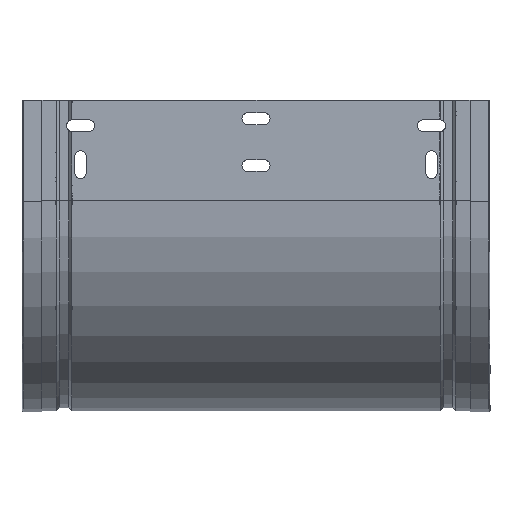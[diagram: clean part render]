
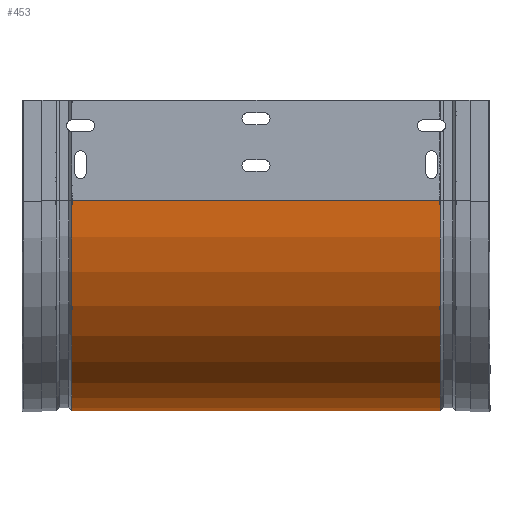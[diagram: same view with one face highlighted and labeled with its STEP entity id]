
A CAD part, front view. The second image highlights one B-rep face of the part: STEP entity #453.
In plain terms, the highlighted cylindrical face has radius 134.8 mm (diameter 269.6 mm), a partial arc.
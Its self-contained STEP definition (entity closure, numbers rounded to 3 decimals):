
#40 = ORIENTED_EDGE ( 'NONE', *, *, #5188, .T. ) ;
#144 = DIRECTION ( 'NONE',  ( 0., 0., -1. ) ) ;
#238 = CARTESIAN_POINT ( 'NONE',  ( -267., 134., -199.2 ) ) ;
#270 = EDGE_CURVE ( 'NONE', #3247, #3395, #508, .T. ) ;
#394 = CIRCLE ( 'NONE', #1676, 134.8 ) ;
#453 = ADVANCED_FACE ( 'NONE', ( #5067 ), #1653, .T. ) ;
#508 = LINE ( 'NONE', #5388, #1734 ) ;
#654 = VECTOR ( 'NONE', #1642, 1000. ) ;
#724 = CARTESIAN_POINT ( 'NONE',  ( -31., -0.8, -64.4 ) ) ;
#896 = CARTESIAN_POINT ( 'NONE',  ( -31., 134., -199.2 ) ) ;
#1262 = AXIS2_PLACEMENT_3D ( 'NONE', #4352, #3443, #2229 ) ;
#1339 = CARTESIAN_POINT ( 'NONE',  ( -31., 134., -64.4 ) ) ;
#1347 = DIRECTION ( 'NONE',  ( 1., 0., 0. ) ) ;
#1480 = VERTEX_POINT ( 'NONE', #4097 ) ;
#1591 = ORIENTED_EDGE ( 'NONE', *, *, #2589, .F. ) ;
#1642 = DIRECTION ( 'NONE',  ( 1., 0., 0. ) ) ;
#1653 = CYLINDRICAL_SURFACE ( 'NONE', #1262, 134.8 ) ;
#1676 = AXIS2_PLACEMENT_3D ( 'NONE', #1339, #4846, #1833 ) ;
#1726 = CARTESIAN_POINT ( 'NONE',  ( -267., -0.8, -64.4 ) ) ;
#1734 = VECTOR ( 'NONE', #4544, 1000. ) ;
#1833 = DIRECTION ( 'NONE',  ( 0., 0., -1. ) ) ;
#2229 = DIRECTION ( 'NONE',  ( 0., 0., -1. ) ) ;
#2589 = EDGE_CURVE ( 'NONE', #4158, #1480, #3344, .T. ) ;
#2682 = AXIS2_PLACEMENT_3D ( 'NONE', #5355, #1347, #144 ) ;
#2768 = CIRCLE ( 'NONE', #2682, 134.8 ) ;
#3247 = VERTEX_POINT ( 'NONE', #238 ) ;
#3344 = LINE ( 'NONE', #724, #654 ) ;
#3395 = VERTEX_POINT ( 'NONE', #896 ) ;
#3443 = DIRECTION ( 'NONE',  ( 1., 0., 0. ) ) ;
#3972 = ORIENTED_EDGE ( 'NONE', *, *, #5628, .F. ) ;
#4097 = CARTESIAN_POINT ( 'NONE',  ( -31., -0.8, -64.4 ) ) ;
#4158 = VERTEX_POINT ( 'NONE', #1726 ) ;
#4352 = CARTESIAN_POINT ( 'NONE',  ( 0., 134., -64.4 ) ) ;
#4544 = DIRECTION ( 'NONE',  ( 1., 0., 0. ) ) ;
#4846 = DIRECTION ( 'NONE',  ( 1., 0., 0. ) ) ;
#5067 = FACE_OUTER_BOUND ( 'NONE', #5406, .T. ) ;
#5188 = EDGE_CURVE ( 'NONE', #4158, #3247, #2768, .T. ) ;
#5355 = CARTESIAN_POINT ( 'NONE',  ( -267., 134., -64.4 ) ) ;
#5388 = CARTESIAN_POINT ( 'NONE',  ( -31., 134., -199.2 ) ) ;
#5406 = EDGE_LOOP ( 'NONE', ( #1591, #40, #5644, #3972 ) ) ;
#5628 = EDGE_CURVE ( 'NONE', #1480, #3395, #394, .T. ) ;
#5644 = ORIENTED_EDGE ( 'NONE', *, *, #270, .T. ) ;
